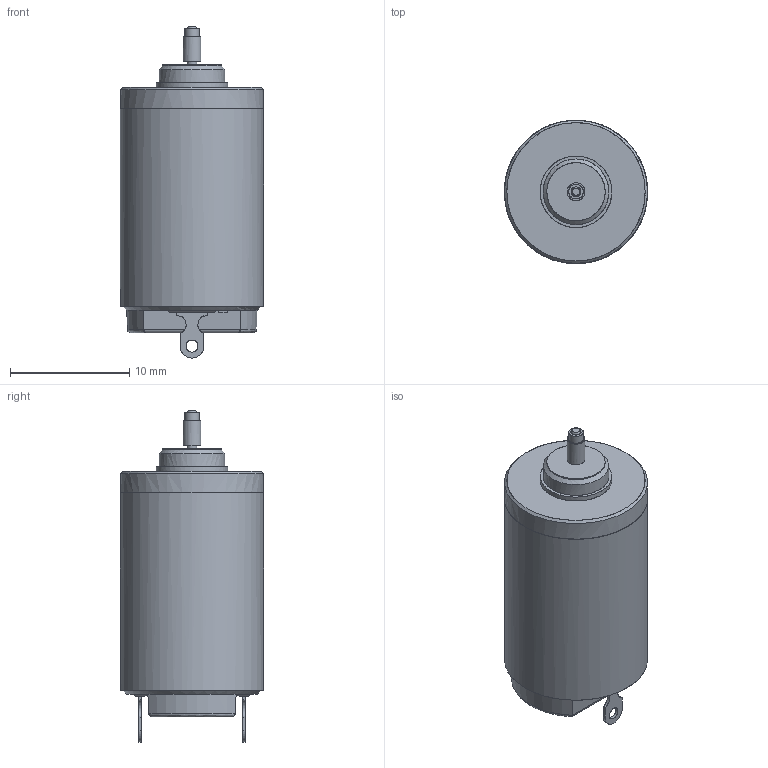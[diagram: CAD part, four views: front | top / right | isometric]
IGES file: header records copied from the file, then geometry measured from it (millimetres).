
Global section: file name: D:\Daten-Huge\PLM_Export\A_Internet_Modelle\Motoren\12xx\1219\1219N_G.igs; native system: NX V7.5; preprocessor: SIEMENS PLM Software NX 7.5; author: DR. FRITZ FAULHABER GmbH & Co. KG; organization: DR. FRITZ FAULHABER GmbH & Co. KG; date: 20131018.144531; units: millimetre
Bounding box: 12 x 12 x 27.85 mm (x, y, z)
Surface area: 1051.6 mm2 (no closed solid volume)
Topology: 0 solids, 0 shells, 83 faces, 528 edges, 509 vertices
Faces by surface type: bspline 83
